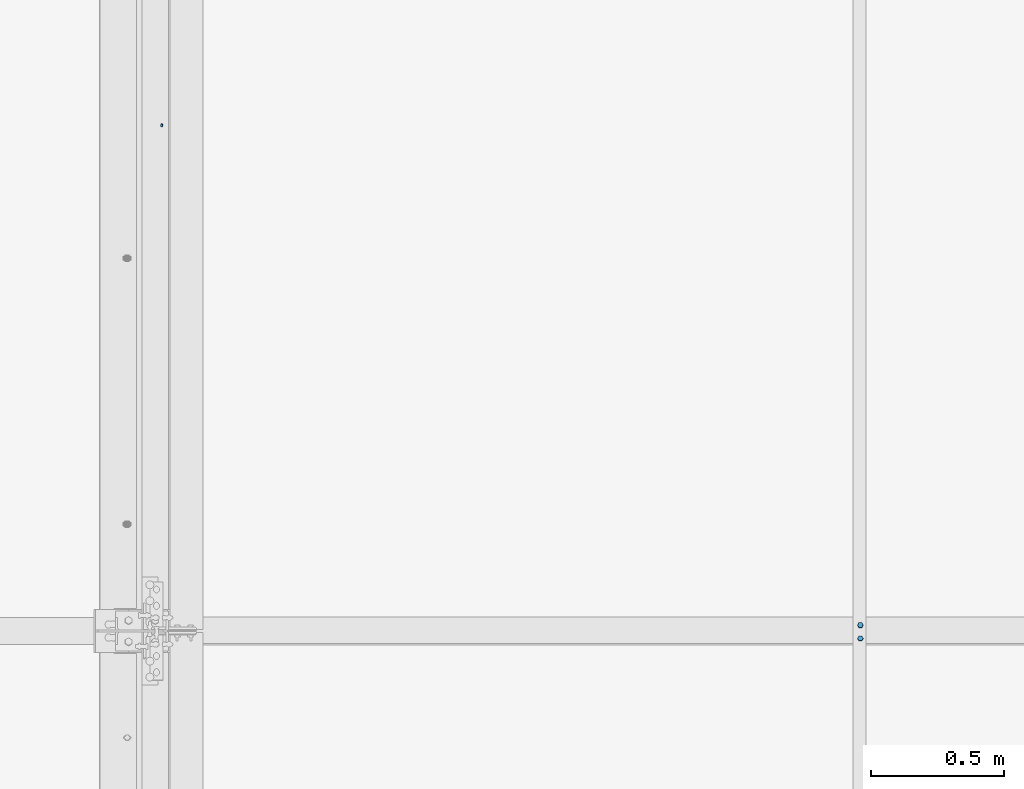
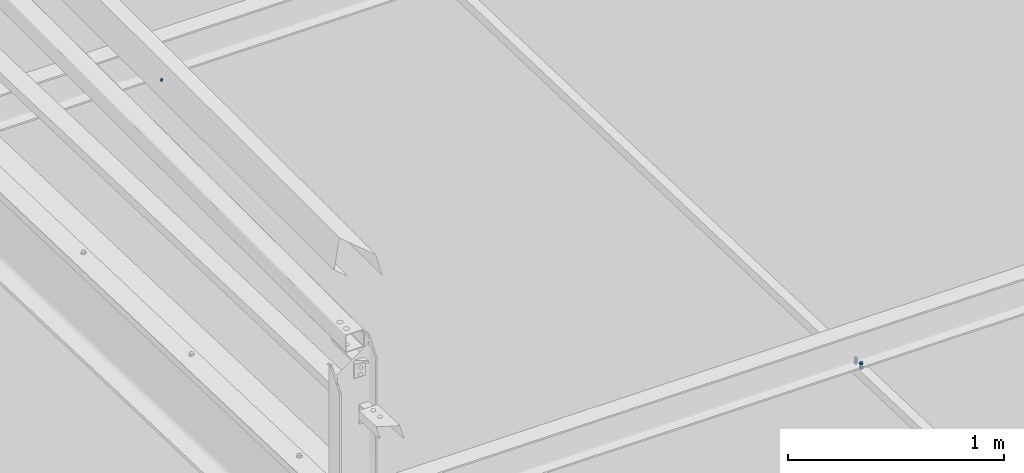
# One storey, part 295 of 362: 2 mechanical fasteners.
"""IFC2X3 building model written with IfcOpenShell, lengths in millimetres."""

from ifc_helpers import new_model, si_unit, frame, origin_with_axes, origin_2d_with_axis, place, context, subcontext, project, spatial, polyline, circle, outline, extrude, source, transform, mapped, material, type_object, element, save


model = new_model("IFC2X3")

# Units and contexts
model_context = context("Model", 3, precision=1e-05, world=origin_with_axes())
body_context = subcontext(model_context, "Body", "Model", "MODEL_VIEW")
ifc_project = project(units=[si_unit("LENGTHUNIT", "METRE", prefix="MILLI"), si_unit("AREAUNIT", "SQUARE_METRE"), si_unit("VOLUMEUNIT", "CUBIC_METRE"), si_unit("MASSUNIT", "GRAM", prefix="KILO"), si_unit("TIMEUNIT", "SECOND"), si_unit("PLANEANGLEUNIT", "RADIAN"), si_unit("SOLIDANGLEUNIT", "STERADIAN"), si_unit("THERMODYNAMICTEMPERATUREUNIT", "DEGREE_CELSIUS"), si_unit("LUMINOUSINTENSITYUNIT", "LUMEN")], contexts=[model_context])

# Site, building, storey
site_placement = place(None, origin_with_axes())
site = spatial("IfcSite", under=ifc_project, at=site_placement, Name="Undefined", CompositionType="ELEMENT")
building_placement = place(site_placement, origin_with_axes())
building = spatial("IfcBuilding", under=site, at=building_placement, Name="Undefined", CompositionType="ELEMENT")
storey_placement = place(building_placement, origin_with_axes())
storey = spatial("IfcBuildingStorey", under=building, at=storey_placement, Name="Undefined", CompositionType="ELEMENT", Elevation=0.0)

# Mechanical fasteners
ifc_material_1 = material(Name="6.8")
mechanical_fastener_type = type_object("IfcMechanicalFastenerType", Name="Bolt assembly")
shared_shape_1 = source(origin_with_axes(), body_context, "Body", "SweptSolid", [
    extrude(circle(Radius=7.0, at=origin_2d_with_axis()), frame((0.0, 0.0, 0.0), z_axis=(0.0, 1.0, 0.0), x_axis=(1.0, 0.0, 0.0)), (0.0, 0.0, 1.0), 3.1),
])
mechanical_fastener_1_placement = place(storey_placement, frame((28953.4915880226, 13300.0, 8856.5720867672), z_axis=(0.0, -1.0, 0.0), x_axis=(-0.460093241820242, 0.0, -0.887870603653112)))
element("IfcMechanicalFastener", 1, at=mechanical_fastener_1_placement, inside=storey, type_object=mechanical_fastener_type, material=ifc_material_1, Name="Bolt assembly", NominalDiameter=12.0, NominalLength=3.0, context=body_context, shape_type="MappedRepresentation", body=[
    mapped(shared_shape_1, transform((0.0, 0.0, 0.0))),
])
ifc_material_2 = material(Name="8.8-SB-ZINGUE")
shared_shape_2 = source(origin_with_axes(), body_context, "Body", "SweptSolid", [
    extrude(circle(Radius=7.0, at=origin_2d_with_axis()), frame((0.0, -8.39876051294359, 0.0), z_axis=(0.0, 1.0, 0.0), x_axis=(1.0, 0.0, 0.0)), (0.0, 0.0, 1.0), 8.5),
    extrude(circle(Radius=7.0, at=origin_2d_with_axis()), frame((0.0, -0.100011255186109, 0.0), z_axis=(0.0, 1.0, 0.0), x_axis=(1.0, 0.0, 0.0)), (0.0, 0.0, 1.0), 5.1),
    extrude(outline(polyline([(10.39230484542, 0.0), (5.19615242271, 9.00000000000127), (-5.19615242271, 9.00000000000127), (-10.39230484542, 0.0), (-5.19615242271, -9.00000000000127), (5.19615242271, -9.00000000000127), (10.39230484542, 0.0)])), frame((0.0, -16.4187605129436, 0.0), z_axis=(0.0, 1.0, 0.0), x_axis=(1.0, 0.0, 0.0)), (0.0, 0.0, 1.0), 7.92),
    extrude(circle(Radius=6.0, at=origin_2d_with_axis()), frame((0.0, -8.49876051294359, 0.0), z_axis=(0.0, 1.0, 0.0), x_axis=(1.0, 0.0, 0.0)), (0.0, 0.0, 1.0), 30.0),
    extrude(outline(polyline([(11.5008173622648, 0.0), (5.7504086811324, 9.96000000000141), (-5.7504086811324, 9.96000000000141), (-11.5008173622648, 0.0), (-5.7504086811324, -9.96000000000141), (5.7504086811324, -9.96000000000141), (11.5008173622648, 0.0)])), frame((0.0, 5.0, 0.0), z_axis=(0.0, 1.0, 0.0), x_axis=(1.0, 0.0, 0.0)), (0.0, 0.0, 1.0), 7.92),
])
mechanical_fastener_2_placement = place(storey_placement, frame((31580.0000126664, 11396.8595005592, 7491.74218889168), z_axis=(0.0, -0.999506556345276, 0.031410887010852), x_axis=(-1.0, 0.0, 0.0)))
element("IfcMechanicalFastener", 2, at=mechanical_fastener_2_placement, inside=storey, type_object=mechanical_fastener_type, material=ifc_material_2, Name="Bolt assembly", NominalDiameter=12.0, NominalLength=30.0, context=body_context, shape_type="MappedRepresentation", body=[
    mapped(shared_shape_2, transform((0.0, 0.0, -25.0))),
    mapped(shared_shape_2, transform((0.0, 0.0, 25.0))),
])

save(model, "model.ifc")
